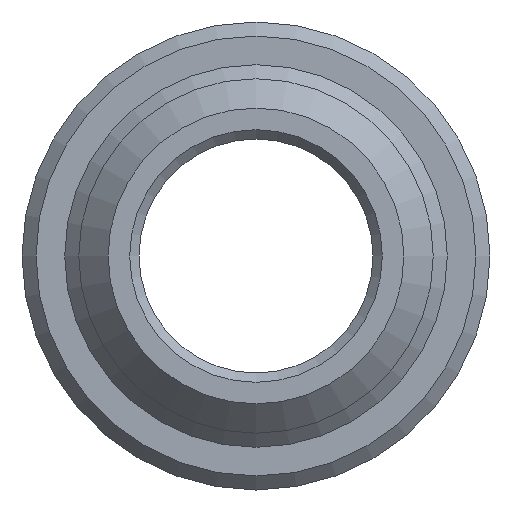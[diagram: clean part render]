
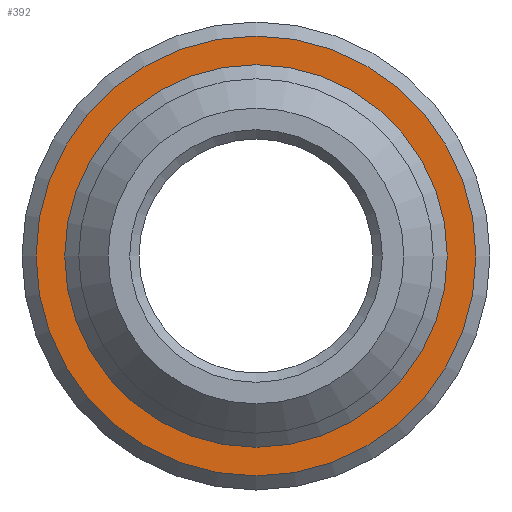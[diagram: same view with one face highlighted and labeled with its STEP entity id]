
A CAD part, front view. The second image highlights one B-rep face of the part: STEP entity #392.
In plain terms, the highlighted planar face has unit normal (0, -1, 0).
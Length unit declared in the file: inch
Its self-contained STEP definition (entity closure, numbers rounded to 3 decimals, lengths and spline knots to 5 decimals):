
#33=FACE_BOUND('',#86,.T.);
#44=PLANE('',#443);
#60=FACE_OUTER_BOUND('',#85,.T.);
#85=EDGE_LOOP('',(#316));
#86=EDGE_LOOP('',(#317));
#158=CIRCLE('',#442,0.20439);
#159=CIRCLE('',#444,0.235);
#195=VERTEX_POINT('',#678);
#196=VERTEX_POINT('',#682);
#243=EDGE_CURVE('',#195,#195,#158,.T.);
#244=EDGE_CURVE('',#196,#196,#159,.T.);
#316=ORIENTED_EDGE('',*,*,#244,.F.);
#317=ORIENTED_EDGE('',*,*,#243,.F.);
#392=ADVANCED_FACE('',(#60,#33),#44,.T.);
#442=AXIS2_PLACEMENT_3D('',#680,#536,#537);
#443=AXIS2_PLACEMENT_3D('',#681,#538,#539);
#444=AXIS2_PLACEMENT_3D('',#683,#540,#541);
#536=DIRECTION('center_axis',(0.,-1.,0.));
#537=DIRECTION('ref_axis',(0.,0.,-1.));
#538=DIRECTION('center_axis',(0.,-1.,0.));
#539=DIRECTION('ref_axis',(0.,0.,-1.));
#540=DIRECTION('center_axis',(0.,1.,0.));
#541=DIRECTION('ref_axis',(0.,0.,1.));
#678=CARTESIAN_POINT('',(0.,10.75,0.20439));
#680=CARTESIAN_POINT('Origin',(0.,10.75,0.));
#681=CARTESIAN_POINT('Origin',(0.,10.75,-0.203));
#682=CARTESIAN_POINT('',(0.,10.75,-0.235));
#683=CARTESIAN_POINT('Origin',(0.,10.75,0.));
